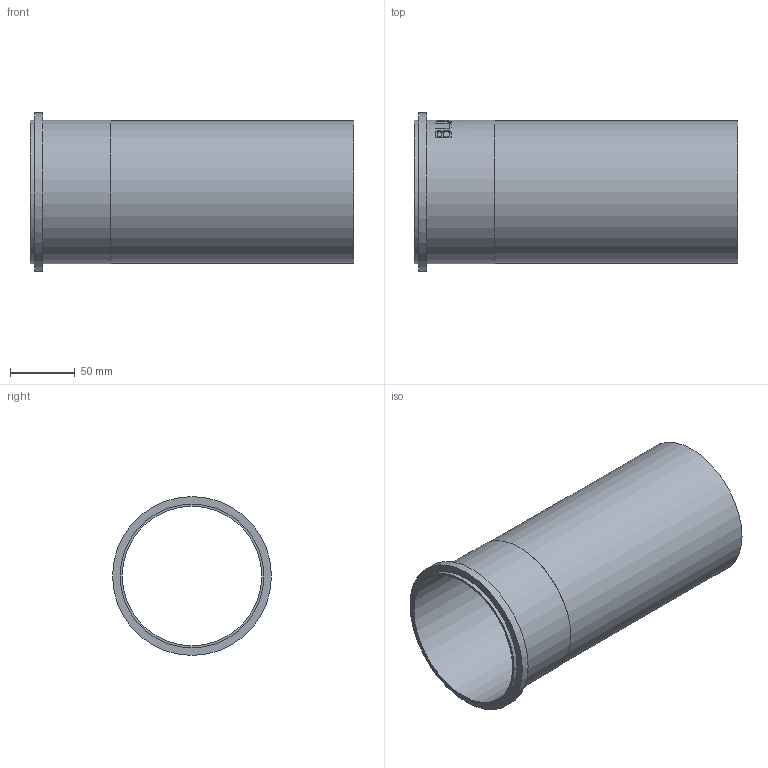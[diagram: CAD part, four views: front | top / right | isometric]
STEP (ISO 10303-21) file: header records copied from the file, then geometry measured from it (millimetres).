
FILE_DESCRIPTION((''),'2;1');
FILE_NAME('I:\WATTS\3D_CAD\3D_CAD_Models\Blucher_Drains\P_StraightPipe\WebsiteFiles\3D\STEP\P4-0.8-316.stp','2009-12-02T14:15:38',('menesek'),(''),'Autodesk Inventor 2010','Autodesk Inventor 2010','');
FILE_SCHEMA(('AUTOMOTIVE_DESIGN { 1 0 10303 214 1 1 1 1 }'));
Length unit declared in the file: inch
Products named in the file (1): P4-0.8-316
Bounding box: 250 x 122.94 x 122.94 mm (x, y, z)
Volume: 114189.3 mm3; surface area: 177190.3 mm2
Topology: 1 solids, 1 shells, 109 faces, 285 edges, 190 vertices
Faces by surface type: plane 59, bspline 34, cylinder 16
Full cylindrical faces by diameter (mm): 107.95 x1, 109.982 x1, 111.252 x2, 122.936 x1
Entity records: 13900 total; most frequent: CARTESIAN_POINT 11522, ORIENTED_EDGE 548, DIRECTION 356, EDGE_CURVE 274, VERTEX_POINT 186, EDGE_LOOP 128, AXIS2_PLACEMENT_3D 120, VECTOR 116
